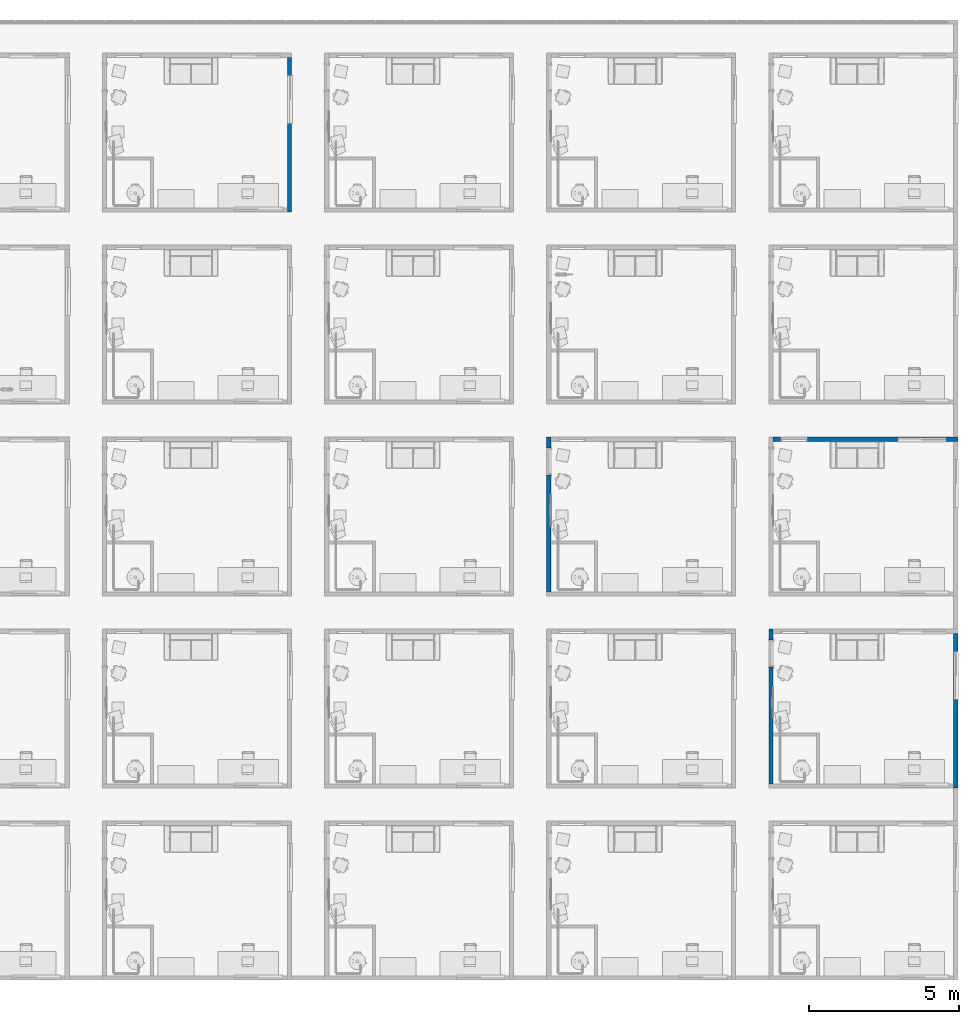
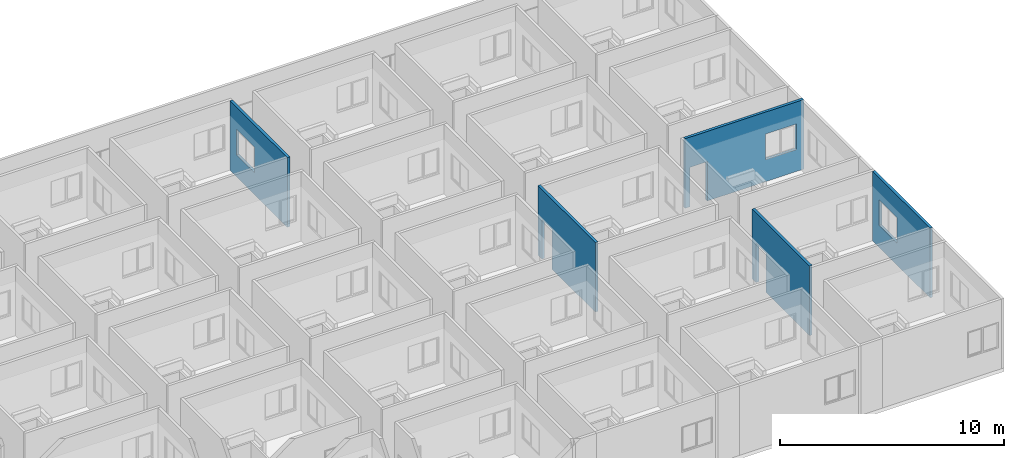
# One storey, part 13 of 71: 5 walls, 6 openings.
"""IFC4 building model written with IfcOpenShell, lengths in centimetres."""

from ifc_helpers import new_model, entity, si_unit, converted_unit, derived_unit, direction, frame, origin, place, context, subcontext, project, spatial, indexed_curve, outline, extrude, polygons, material, type_object, element, save


model = new_model("IFC4")

# Units and contexts
model_context = context("Model", 3, precision=0.001, world=origin(), true_north=direction((6.123233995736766e-17, 1.0)))
body_context = subcontext(model_context, "Body", "Model", "MODEL_VIEW")
ifc_project = project(units=[si_unit("LENGTHUNIT", "METRE", prefix="CENTI"), si_unit("AREAUNIT", "SQUARE_METRE"), si_unit("VOLUMEUNIT", "CUBIC_METRE"), derived_unit("THERMALTRANSMITTANCEUNIT", [(si_unit("MASSUNIT", "GRAM", prefix="KILO"), 1), (si_unit("THERMODYNAMICTEMPERATUREUNIT", "KELVIN"), -1), (si_unit("TIMEUNIT", "SECOND"), -3)]), converted_unit("PLANEANGLEUNIT", "DEGREE", entity("IfcPlaneAngleMeasure", 0.017453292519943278), si_unit("PLANEANGLEUNIT", "RADIAN"), dimensions=[0, 0, 0, 0, 0, 0, 0]), derived_unit("MASSDENSITYUNIT", [(si_unit("MASSUNIT", "GRAM", prefix="KILO"), 1), (si_unit("LENGTHUNIT", "METRE"), -3)]), derived_unit("VAPORPERMEABILITYUNIT", [(si_unit("LENGTHUNIT", "METRE"), -1), (si_unit("TIMEUNIT", "SECOND"), 1)]), derived_unit("USERDEFINED", [(si_unit("MASSUNIT", "GRAM", prefix="KILO"), 1), (si_unit("TIMEUNIT", "SECOND"), -3), (si_unit("LENGTHUNIT", "METRE"), 3), (si_unit("ELECTRICCURRENTUNIT", "AMPERE"), -2)]), derived_unit("SPECIFICHEATCAPACITYUNIT", [(si_unit("THERMODYNAMICTEMPERATUREUNIT", "KELVIN"), -1), (si_unit("LENGTHUNIT", "METRE"), 2), (si_unit("TIMEUNIT", "SECOND"), -2)]), derived_unit("THERMALCONDUCTANCEUNIT", [(si_unit("MASSUNIT", "GRAM", prefix="KILO"), 1), (si_unit("THERMODYNAMICTEMPERATUREUNIT", "KELVIN"), -1), (si_unit("TIMEUNIT", "SECOND"), -3), (si_unit("LENGTHUNIT", "METRE"), 1)]), si_unit("PRESSUREUNIT", "PASCAL"), derived_unit("MODULUSOFELASTICITYUNIT", [(si_unit("MASSUNIT", "GRAM", prefix="KILO"), 1), (si_unit("LENGTHUNIT", "METRE"), -1), (si_unit("TIMEUNIT", "SECOND"), -2)]), derived_unit("THERMALEXPANSIONCOEFFICIENTUNIT", [(si_unit("THERMODYNAMICTEMPERATUREUNIT", "KELVIN"), -1)])], contexts=[model_context])

# Site, building, storey
site_placement = place(None, origin())
site = spatial("IfcSite", under=ifc_project, at=site_placement, Name="Default", CompositionType="ELEMENT")
building_placement = place(site_placement, origin())
building = spatial("IfcBuilding", under=site, at=building_placement, Name="IDS Escape Game Building", CompositionType="ELEMENT")
storey_placement = place(building_placement, frame((0.0, 0.0, 1200.0)))
storey = spatial("IfcBuildingStorey", under=building, at=storey_placement, Name="03_Third Floor", CompositionType="ELEMENT", Elevation=1200.0)

# Wall, opening
ifc_material = material(Name="ARC_FME.g2_Fg2 Masonry_00_gen_BERSnl", Category="g - klei")
wall_type = type_object("IfcWallType", Name="Basic Wall:ARC_22.10_WA_LB_SB14_gen_BERSnl", PredefinedType="STANDARD")
wall_1_placement = place(storey_placement, frame((4428.0, 1165.0, 0.0), z_axis=(0.0, 0.0, 1.0), x_axis=(0.0, -1.0, 0.0)))
wall_1 = element("IfcWall", 1, at=wall_1_placement, inside=storey, type_object=wall_type, material=ifc_material, Name="Basic Wall:ARC_22.10_WA_LB_SB14_gen_BERSnl", ObjectType="Basic Wall:ARC_22.10_WA_LB_SB14_gen_BERSnl", PredefinedType="NOTDEFINED", context=body_context, shape_type="Tessellation", body=[
    polygons([(514.0000000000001, -7.000000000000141, 380.0), (0.0, -7.000000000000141, 380.0), (0.0, -7.000000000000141, 0.0), (35.99999999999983, -7.000000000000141, 0.0), (35.99999999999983, -7.000000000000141, 215.00000000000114), (125.99999999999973, -7.000000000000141, 215.00000000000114), (125.99999999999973, -7.000000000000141, 0.0), (514.0000000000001, -7.000000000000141, 0.0), (0.0, 7.000000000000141, 380.0), (14.000000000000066, 7.000000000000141, 380.0), (514.0000000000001, 7.000000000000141, 380.0), (514.0000000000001, 7.000000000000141, 0.0), (355.99999999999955, 7.000000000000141, 0.0), (345.9999999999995, 7.000000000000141, 0.0), (125.99999999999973, 7.000000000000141, 0.0), (125.99999999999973, 7.000000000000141, 215.00000000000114), (35.99999999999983, 7.000000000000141, 215.00000000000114), (35.99999999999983, 7.000000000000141, 0.0), (14.000000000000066, 7.000000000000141, 0.0), (0.0, 7.000000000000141, 0.0)], [[[1, 2, 3, 4, 5, 6, 7, 8]], [[9, 10, 11, 12, 13, 14, 15, 16, 17, 18, 19, 20]], [[3, 20, 19, 18, 4]], [[2, 1, 11, 10, 9]], [[17, 5, 4, 18]], [[6, 16, 15, 7]], [[5, 17, 16, 6]], [[3, 2, 9, 20]], [[1, 8, 12, 11]], [[12, 8, 7, 15, 14, 13]]], closed=True),
])
opening_1_placement = place(wall_1_placement, frame((1165.0, -4428.0, 0.0), z_axis=(0.0, 0.0, 1.0), x_axis=(0.0, 1.0, 0.0)))
element("IfcOpeningElement", 2, at=opening_1_placement, cuts=wall_1, Name="Basic Wall:ARC_22.10_WA_LB_SB14_gen_BERSnl", PredefinedType="OPENING", context=body_context, shape_type="SweptSolid", body=[
    extrude(outline(indexed_curve([(-137.49999999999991, -44.99999999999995), (137.49999999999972, -44.99999999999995), (137.49999999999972, 44.99999999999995), (-137.49999999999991, 44.99999999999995), (-137.49999999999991, -44.99999999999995)], self_intersect=False)), frame((4338.0, 1084.0, 77.50000000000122), z_axis=(1.0, 0.0, 0.0), x_axis=(0.0, 0.0, 1.0)), (0.0, 0.0, 1.0), 166.00000000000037),
])

wall_2_placement = place(storey_placement, frame((5042.0, 637.0, 0.0), z_axis=(0.0, 0.0, 1.0), x_axis=(0.0, 1.0, 0.0)))
wall_2 = element("IfcWall", 3, at=wall_2_placement, inside=storey, type_object=wall_type, material=ifc_material, Name="Basic Wall:ARC_22.10_WA_LB_SB14_gen_BERSnl", ObjectType="Basic Wall:ARC_22.10_WA_LB_SB14_gen_BERSnl", PredefinedType="NOTDEFINED", context=body_context, shape_type="Tessellation", body=[
    polygons([(0.0, -7.000000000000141, 0.0), (514.0, -7.000000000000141, 0.0), (514.0, -7.000000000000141, 380.0), (0.0, -7.000000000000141, 380.0), (453.99999999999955, -6.999999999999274, 260.00000000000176), (453.9999999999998, -7.000000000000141, 120.00000000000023), (293.9999999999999, -7.000000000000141, 120.00000000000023), (293.9999999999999, -6.999999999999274, 260.00000000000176), (453.9999999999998, 7.000000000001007, 120.00000000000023), (453.9999999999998, 7.000000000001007, 260.0), (293.9999999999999, 7.000000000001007, 260.0), (293.9999999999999, 7.000000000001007, 120.00000000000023), (0.0, 7.000000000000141, 0.0), (0.0, 7.000000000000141, 380.0), (13.999999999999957, 7.000000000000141, 380.0), (514.0, 7.000000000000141, 380.0), (514.0, 7.000000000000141, 0.0), (13.999999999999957, 7.000000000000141, 0.0)], [[[1, 2, 3, 4], [5, 6, 7, 8]], [[13, 14, 15, 16, 17, 18], [9, 10, 11, 12]], [[2, 1, 13, 18, 17]], [[4, 3, 16, 15, 14]], [[10, 9, 6, 5]], [[7, 12, 11, 8]], [[10, 5, 8, 11]], [[12, 7, 6, 9]], [[1, 4, 14, 13]], [[3, 2, 17, 16]]], closed=True),
])
opening_2_placement = place(wall_2_placement, frame((-637.0, 5042.0, 120.0), z_axis=(0.0, 0.0, 1.0), x_axis=(0.0, -1.0, 0.0)))
element("IfcOpeningElement", 4, at=opening_2_placement, cuts=wall_2, Name="Basic Wall:ARC_22.10_WA_LB_SB14_gen_BERSnl", PredefinedType="OPENING", context=body_context, shape_type="Tessellation", body=[
    polygons([(5035.000000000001, 1091.0, 2.2737367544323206e-13), (5035.000000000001, 1091.0, -1.0), (5030.000000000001, 1091.0, -1.0), (5030.000000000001, 1091.0, 2.2737367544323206e-13), (5035.000000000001, 931.0, 2.2737367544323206e-13), (5030.000000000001, 931.0, 2.2737367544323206e-13), (5030.000000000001, 931.0, -1.0), (5035.000000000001, 931.0, -1.0), (5035.0, 1086.0, 0.0), (5035.000000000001, 936.0, 0.0), (5030.000000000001, 936.0, 2.2737367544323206e-13), (5029.999999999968, 936.0, 135.0), (5029.999999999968, 1086.0, 135.0), (5030.000000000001, 1086.0, 2.2737367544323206e-13), (5054.036825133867, 1090.9999999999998, 2.2737367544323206e-13), (5035.0, 1091.0, 2.2737367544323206e-13), (5035.0, 1091.0, 140.00000000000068), (5054.036825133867, 1091.0, 140.00000000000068), (5054.036825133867, 931.0, 140.0), (5035.0, 931.0, 140.0), (5035.0, 931.0, 2.2737367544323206e-13), (5054.036825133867, 931.0, 2.2737367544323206e-13), (5035.0, 1086.0, 135.0), (5035.0, 936.0, 135.0)], [[[1, 2, 3, 4]], [[5, 6, 7, 8]], [[1, 9, 10, 5, 8, 2]], [[2, 8, 7, 3]], [[3, 7, 6, 11, 12, 13, 14, 4]], [[4, 14, 9, 1]], [[15, 16, 17, 18]], [[19, 20, 21, 22]], [[18, 17, 20, 19]], [[18, 19, 22, 15]], [[17, 16, 9, 23, 24, 10, 21, 20]], [[22, 21, 10, 9, 16, 15]], [[11, 10, 24, 12]], [[13, 23, 9, 14]], [[12, 24, 23, 13]], [[5, 10, 11, 6]]], closed=True),
])

wall_3_placement = place(storey_placement, frame((3690.0, 1803.0, 0.0), z_axis=(0.0, 0.0, 1.0), x_axis=(0.0, -1.0, 0.0)))
wall_3 = element("IfcWall", 5, at=wall_3_placement, inside=storey, type_object=wall_type, material=ifc_material, Name="Basic Wall:ARC_22.10_WA_LB_SB14_gen_BERSnl", ObjectType="Basic Wall:ARC_22.10_WA_LB_SB14_gen_BERSnl", PredefinedType="NOTDEFINED", context=body_context, shape_type="Tessellation", body=[
    polygons([(514.0000000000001, -6.999999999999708, 380.0), (2.1657342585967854e-13, -6.999999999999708, 380.0), (2.1657342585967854e-13, -6.999999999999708, 0.0), (35.99999999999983, -6.999999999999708, 0.0), (36.00000000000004, -6.999999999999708, 215.00000000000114), (125.99999999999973, -6.999999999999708, 215.00000000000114), (125.99999999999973, -6.999999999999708, 0.0), (514.0000000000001, -6.999999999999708, 0.0), (2.1657342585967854e-13, 7.000000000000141, 380.0), (14.000000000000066, 7.000000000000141, 380.0), (514.0000000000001, 7.000000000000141, 380.0), (514.0000000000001, 7.000000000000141, 0.0), (355.99999999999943, 7.000000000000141, 0.0), (345.9999999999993, 7.000000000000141, 0.0), (125.99999999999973, 7.000000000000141, 0.0), (125.99999999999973, 7.000000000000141, 215.00000000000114), (35.99999999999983, 7.000000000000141, 215.00000000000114), (35.99999999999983, 7.000000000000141, 0.0), (14.000000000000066, 7.000000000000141, 0.0), (2.1657342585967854e-13, 7.000000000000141, 0.0)], [[[1, 2, 3, 4, 5, 6, 7, 8]], [[9, 10, 11, 12, 13, 14, 15, 16, 17, 18, 19, 20]], [[3, 20, 19, 18, 4]], [[2, 1, 11, 10, 9]], [[17, 5, 4, 18]], [[6, 16, 15, 7]], [[5, 17, 16, 6]], [[3, 2, 9, 20]], [[1, 8, 12, 11]], [[12, 8, 7, 15, 14, 13]]], closed=True),
])
opening_3_placement = place(wall_3_placement, frame((1803.0, -3690.0, 0.0), z_axis=(0.0, 0.0, 1.0), x_axis=(0.0, 1.0, 0.0)))
element("IfcOpeningElement", 6, at=opening_3_placement, cuts=wall_3, Name="Basic Wall:ARC_22.10_WA_LB_SB14_gen_BERSnl", PredefinedType="OPENING", context=body_context, shape_type="SweptSolid", body=[
    extrude(outline(indexed_curve([(-137.49999999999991, -44.99999999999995), (137.49999999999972, -44.99999999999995), (137.49999999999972, 44.99999999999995), (-137.49999999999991, 44.99999999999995), (-137.49999999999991, -44.99999999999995)], self_intersect=False)), frame((3600.0, 1722.0, 77.50000000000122), z_axis=(1.0, 0.0, 0.0), x_axis=(0.0, 0.0, 1.0)), (0.0, 0.0, 1.0), 166.00000000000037),
])

# Wall, openings
wall_4_placement = place(storey_placement, frame((5049.0, 1796.0, 0.0), z_axis=(0.0, 0.0, 1.0), x_axis=(-1.0, 0.0, 0.0)))
wall_4 = element("IfcWall", 7, at=wall_4_placement, inside=storey, type_object=wall_type, material=ifc_material, Name="Basic Wall:ARC_22.10_WA_LB_SB14_gen_BERSnl", ObjectType="Basic Wall:ARC_22.10_WA_LB_SB14_gen_BERSnl", PredefinedType="NOTDEFINED", context=body_context, shape_type="Tessellation", body=[
    polygons([(38.999999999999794, -7.000000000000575, 120.00000000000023), (38.999999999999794, -7.000000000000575, 260.0000000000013), (198.9999999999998, -7.000000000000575, 260.0000000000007), (198.9999999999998, -7.000000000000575, 120.00000000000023), (194.00000000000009, -7.000000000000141, 120.0), (43.999999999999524, -7.000000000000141, 120.0), (613.9999999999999, -6.9999999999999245, 380.0), (14.000000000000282, -7.000000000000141, 380.0), (0.0, -6.9999999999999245, 380.0), (0.0, -6.9999999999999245, 0.0), (14.000000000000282, -7.000000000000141, 0.0), (498.99999999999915, -6.9999999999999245, 0.0), (498.99999999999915, -6.9999999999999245, 215.00000000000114), (588.9999999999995, -6.9999999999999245, 215.00000000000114), (588.9999999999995, -6.9999999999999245, 0.0), (613.9999999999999, -6.9999999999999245, 0.0), (0.0, 6.9999999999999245, 380.0), (14.000000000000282, 6.9999999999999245, 380.0), (613.9999999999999, 6.9999999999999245, 380.0), (613.9999999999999, 6.9999999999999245, 0.0), (588.9999999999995, 6.9999999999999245, 0.0), (588.9999999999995, 6.9999999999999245, 215.00000000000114), (498.99999999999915, 6.9999999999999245, 215.00000000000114), (498.99999999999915, 6.9999999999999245, 0.0), (14.000000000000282, 6.9999999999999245, 0.0), (0.0, 6.9999999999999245, 0.0), (38.999999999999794, 6.9999999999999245, 260.00000000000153), (38.999999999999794, 6.9999999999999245, 120.00000000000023), (198.9999999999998, 6.9999999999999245, 120.00000000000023), (198.9999999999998, 6.9999999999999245, 260.0000000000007)], [[[7, 8, 9, 10, 11, 12, 13, 14, 15, 16], [1, 2, 3, 4, 5, 6]], [[17, 18, 19, 20, 21, 22, 23, 24, 25, 26], [27, 28, 29, 30]], [[12, 11, 10, 26, 25, 24]], [[9, 8, 7, 19, 18, 17]], [[14, 22, 21, 15]], [[23, 13, 12, 24]], [[22, 14, 13, 23]], [[1, 28, 27, 2]], [[3, 30, 29, 4]], [[30, 3, 2, 27]], [[28, 1, 6, 5, 4, 29]], [[10, 9, 17, 26]], [[7, 16, 20, 19]], [[16, 15, 21, 20]]], closed=True),
])
opening_4_placement = place(wall_4_placement, frame((5049.0, 1796.0, 0.0), z_axis=(0.0, 0.0, 1.0), x_axis=(-1.0, 0.0, 0.0)))
element("IfcOpeningElement", 8, at=opening_4_placement, cuts=wall_4, Name="Basic Wall:ARC_22.10_WA_LB_SB14_gen_BERSnl", PredefinedType="OPENING", context=body_context, shape_type="SweptSolid", body=[
    extrude(outline(indexed_curve([(-45.00000000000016, -137.49999999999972), (45.00000000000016, -137.49999999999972), (45.00000000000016, 137.49999999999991), (-45.00000000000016, 137.49999999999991), (-45.00000000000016, -137.49999999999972)], self_intersect=False)), frame((4505.0, 1886.0, 77.50000000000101), z_axis=(0.0, -1.0, 0.0), x_axis=(1.0, 0.0, 0.0)), (0.0, 0.0, 1.0), 165.99999999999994),
])
opening_5_placement = place(wall_4_placement, frame((5049.0, 1796.0, 120.0), z_axis=(0.0, 0.0, 1.0), x_axis=(-1.0, 0.0, 0.0)))
element("IfcOpeningElement", 9, at=opening_5_placement, cuts=wall_4, Name="Basic Wall:ARC_22.10_WA_LB_SB14_gen_BERSnl", PredefinedType="OPENING", context=body_context, shape_type="Tessellation", body=[
    polygons([(5010.0, 1803.0, 2.2737367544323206e-13), (5010.0, 1803.0, -1.0), (5010.0, 1808.0000000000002, -1.0), (5010.0, 1808.0000000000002, 2.2737367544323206e-13), (4850.0, 1803.0, 2.2737367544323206e-13), (4850.0, 1808.0000000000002, 2.2737367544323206e-13), (4850.0, 1808.0000000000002, -1.0), (4850.0, 1803.0, -1.0), (5005.0, 1803.0000000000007, 0.0), (4855.0, 1803.0000000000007, 0.0), (4855.0, 1808.0000000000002, 2.2737367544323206e-13), (4855.000000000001, 1808.0000000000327, 135.0), (5005.0, 1808.0000000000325, 135.0), (5005.0, 1808.0000000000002, 2.2737367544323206e-13), (5010.0, 1783.9631748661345, 2.2737367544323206e-13), (5010.0, 1803.0000000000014, 2.2737367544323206e-13), (5010.0, 1803.0000000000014, 140.00000000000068), (5010.0, 1783.9631748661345, 140.00000000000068), (4850.0, 1783.9631748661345, 140.0), (4850.0, 1803.0000000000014, 140.0), (4850.0, 1803.0000000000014, 2.2737367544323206e-13), (4850.0, 1783.9631748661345, 2.2737367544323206e-13), (5005.0, 1803.0000000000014, 135.0), (4855.000000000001, 1803.0000000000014, 135.0)], [[[1, 2, 3, 4]], [[5, 6, 7, 8]], [[1, 9, 10, 5, 8, 2]], [[2, 8, 7, 3]], [[3, 7, 6, 11, 12, 13, 14, 4]], [[4, 14, 9, 1]], [[15, 16, 17, 18]], [[19, 20, 21, 22]], [[18, 17, 20, 19]], [[18, 19, 22, 15]], [[17, 16, 9, 23, 24, 10, 21, 20]], [[22, 21, 10, 9, 16, 15]], [[11, 10, 24, 12]], [[13, 23, 9, 14]], [[12, 24, 23, 13]], [[5, 10, 11, 6]]], closed=True),
])

# Wall, opening
wall_5_placement = place(storey_placement, frame((2828.0, 2551.0, 0.0), z_axis=(0.0, 0.0, 1.0), x_axis=(0.0, 1.0, 0.0)))
wall_5 = element("IfcWall", 10, at=wall_5_placement, inside=storey, type_object=wall_type, material=ifc_material, Name="Basic Wall:ARC_22.10_WA_LB_SB14_gen_BERSnl", ObjectType="Basic Wall:ARC_22.10_WA_LB_SB14_gen_BERSnl", PredefinedType="NOTDEFINED", context=body_context, shape_type="Tessellation", body=[
    polygons([(0.0, -6.999999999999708, 0.0), (513.9999999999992, -6.999999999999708, 0.0), (513.9999999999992, -6.999999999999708, 380.0), (0.0, -6.999999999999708, 380.0), (453.9999999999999, -6.999999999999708, 260.00000000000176), (453.9999999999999, -6.999999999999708, 120.00000000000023), (293.9999999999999, -6.999999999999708, 120.00000000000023), (293.9999999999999, -6.999999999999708, 260.00000000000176), (453.9999999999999, 7.000000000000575, 120.00000000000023), (453.9999999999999, 7.000000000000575, 260.0), (293.9999999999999, 7.000000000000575, 260.0), (293.9999999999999, 7.000000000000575, 120.00000000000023), (0.0, 7.000000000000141, 0.0), (0.0, 7.000000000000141, 380.0), (13.999999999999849, 7.000000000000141, 380.0), (513.9999999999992, 7.000000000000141, 380.0), (513.9999999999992, 7.000000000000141, 0.0), (13.999999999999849, 7.000000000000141, 0.0)], [[[1, 2, 3, 4], [5, 6, 7, 8]], [[13, 14, 15, 16, 17, 18], [9, 10, 11, 12]], [[2, 1, 13, 18, 17]], [[4, 3, 16, 15, 14]], [[10, 9, 6, 5]], [[7, 12, 11, 8]], [[10, 5, 8, 11]], [[12, 7, 6, 9]], [[1, 4, 14, 13]], [[3, 2, 17, 16]]], closed=True),
])
opening_6_placement = place(wall_5_placement, frame((-2551.0, 2828.0, 120.0), z_axis=(0.0, 0.0, 1.0), x_axis=(0.0, -1.0, 0.0)))
element("IfcOpeningElement", 11, at=opening_6_placement, cuts=wall_5, Name="Basic Wall:ARC_22.10_WA_LB_SB14_gen_BERSnl", PredefinedType="OPENING", context=body_context, shape_type="Tessellation", body=[
    polygons([(2820.999999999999, 3005.000000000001, 2.2737367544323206e-13), (2820.999999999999, 3005.000000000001, -1.0), (2815.999999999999, 3005.000000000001, -1.0), (2815.999999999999, 3005.000000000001, 2.2737367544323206e-13), (2820.999999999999, 2845.000000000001, 2.2737367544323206e-13), (2815.999999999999, 2845.000000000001, 2.2737367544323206e-13), (2815.999999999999, 2845.000000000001, -1.0), (2820.999999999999, 2845.000000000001, -1.0), (2820.9999999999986, 3000.000000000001, 0.0), (2820.9999999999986, 2850.000000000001, 0.0), (2815.9999999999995, 2850.0000000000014, 2.2737367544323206e-13), (2815.999999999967, 2850.0000000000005, 135.0), (2815.999999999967, 3000.0000000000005, 135.0), (2815.9999999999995, 3000.000000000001, 2.2737367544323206e-13), (2840.036825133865, 3005.000000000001, 2.2737367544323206e-13), (2820.999999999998, 3005.000000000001, 2.2737367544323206e-13), (2820.999999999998, 3005.000000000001, 140.00000000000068), (2840.036825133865, 3005.000000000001, 140.00000000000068), (2840.036825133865, 2845.000000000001, 140.0), (2820.999999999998, 2845.000000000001, 140.0), (2820.9999999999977, 2845.000000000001, 2.2737367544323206e-13), (2840.036825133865, 2845.000000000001, 2.2737367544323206e-13), (2820.999999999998, 3000.0000000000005, 135.0), (2820.999999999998, 2850.0000000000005, 135.0)], [[[1, 2, 3, 4]], [[5, 6, 7, 8]], [[1, 9, 10, 5, 8, 2]], [[2, 8, 7, 3]], [[3, 7, 6, 11, 12, 13, 14, 4]], [[4, 14, 9, 1]], [[15, 16, 17, 18]], [[19, 20, 21, 22]], [[18, 17, 20, 19]], [[18, 19, 22, 15]], [[17, 16, 9, 23, 24, 10, 21, 20]], [[22, 21, 10, 9, 16, 15]], [[11, 10, 24, 12]], [[13, 23, 9, 14]], [[12, 24, 23, 13]], [[5, 10, 11, 6]]], closed=True),
])

save(model, "model.ifc")
